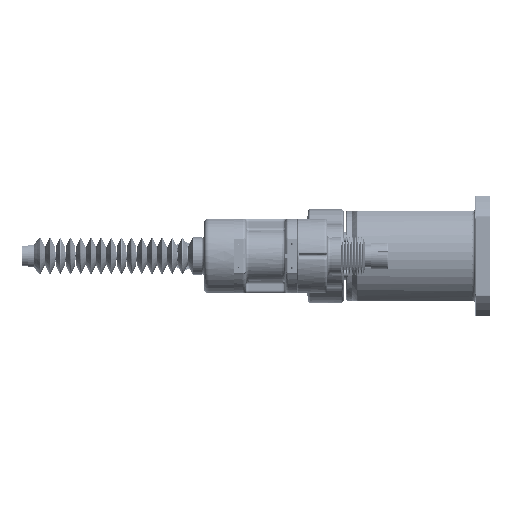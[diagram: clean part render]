
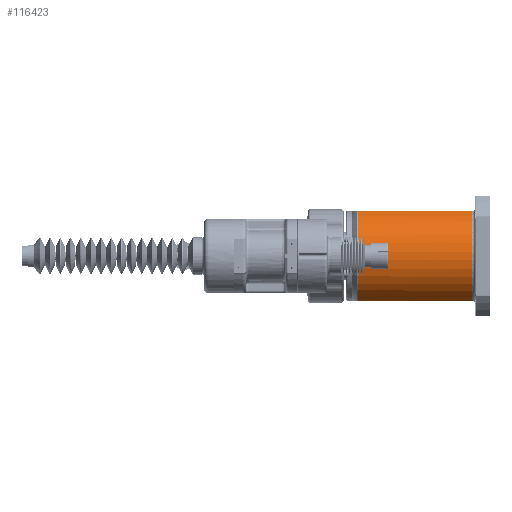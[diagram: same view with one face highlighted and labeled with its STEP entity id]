
A CAD part, left-side view. The second image highlights one B-rep face of the part: STEP entity #116423.
In plain terms, the highlighted cylindrical face has radius 83 mm (diameter 166 mm), a partial arc.
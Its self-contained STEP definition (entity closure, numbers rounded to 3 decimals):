
#2481 = CARTESIAN_POINT ( 'NONE',  ( -36.586, 221.035, 74.502 ) ) ;
#6989 = VERTEX_POINT ( 'NONE', #116184 ) ;
#8229 = CARTESIAN_POINT ( 'NONE',  ( -36.048, 220.78, -74.763 ) ) ;
#12131 = EDGE_CURVE ( 'NONE', #31593, #6989, #113840, .T. ) ;
#15678 = LINE ( 'NONE', #35209, #52972 ) ;
#16330 = EDGE_CURVE ( 'NONE', #16658, #32130, #105154, .T. ) ;
#16658 = VERTEX_POINT ( 'NONE', #77937 ) ;
#31593 = VERTEX_POINT ( 'NONE', #157067 ) ;
#32130 = VERTEX_POINT ( 'NONE', #62257 ) ;
#32395 = CARTESIAN_POINT ( 'NONE',  ( -36.729, 221.064, -74.431 ) ) ;
#34011 = CARTESIAN_POINT ( 'NONE',  ( -36.589, 221.026, -74.5 ) ) ;
#34545 = CARTESIAN_POINT ( 'NONE',  ( -37.726, 221.172, -73.931 ) ) ;
#35209 = CARTESIAN_POINT ( 'NONE',  ( -36.048, 230., -74.763 ) ) ;
#46078 = CARTESIAN_POINT ( 'NONE',  ( -37.438, 221.172, -74.078 ) ) ;
#48480 = CIRCLE ( 'NONE', #103019, 83. ) ;
#48777 = EDGE_CURVE ( 'NONE', #32130, #31593, #116551, .T. ) ;
#50733 = FACE_OUTER_BOUND ( 'NONE', #103417, .T. ) ;
#52972 = VECTOR ( 'NONE', #122308, 1000. ) ;
#53550 = ORIENTED_EDGE ( 'NONE', *, *, #112630, .T. ) ;
#55733 = CARTESIAN_POINT ( 'NONE',  ( 0., 30., 0. ) ) ;
#60464 = CARTESIAN_POINT ( 'NONE',  ( -36.048, 230., 74.763 ) ) ;
#62257 = CARTESIAN_POINT ( 'NONE',  ( -36.048, 220.78, 74.763 ) ) ;
#64444 = CARTESIAN_POINT ( 'NONE',  ( -37.438, 221.172, 74.077 ) ) ;
#69458 = DIRECTION ( 'NONE',  ( 0., 1., 0. ) ) ;
#70213 = CARTESIAN_POINT ( 'NONE',  ( -36.176, 220.862, -74.702 ) ) ;
#71824 = CARTESIAN_POINT ( 'NONE',  ( -37.152, 221.15, -74.221 ) ) ;
#75687 = ORIENTED_EDGE ( 'NONE', *, *, #12131, .T. ) ;
#77937 = CARTESIAN_POINT ( 'NONE',  ( -36.048, 30., 74.763 ) ) ;
#80680 = VERTEX_POINT ( 'NONE', #91601 ) ;
#84144 = B_SPLINE_CURVE_WITH_KNOTS ( 'NONE', 3,
 ( #34545, #46078, #71824, #32395, #34011, #134852, #70213, #8229 ),
 .UNSPECIFIED., .F., .F.,
 ( 4, 2, 2, 4 ),
 ( 0., 0.001, 0.001, 0.002 ),
 .UNSPECIFIED. ) ;
#88469 = CARTESIAN_POINT ( 'NONE',  ( -37.726, 221.172, 73.931 ) ) ;
#91507 = DIRECTION ( 'NONE',  ( 0., -1., 0. ) ) ;
#91601 = CARTESIAN_POINT ( 'NONE',  ( -36.048, 30., -74.763 ) ) ;
#91755 = AXIS2_PLACEMENT_3D ( 'NONE', #97673, #149960, #160438 ) ;
#93416 = DIRECTION ( 'NONE',  ( 1., 0., 0. ) ) ;
#97673 = CARTESIAN_POINT ( 'NONE',  ( 0., 230., 0. ) ) ;
#99327 = VECTOR ( 'NONE', #136193, 1000. ) ;
#102131 = CARTESIAN_POINT ( 'NONE',  ( -37.152, 221.15, 74.221 ) ) ;
#103019 = AXIS2_PLACEMENT_3D ( 'NONE', #55733, #69458, #93416 ) ;
#103417 = EDGE_LOOP ( 'NONE', ( #160569, #53550, #138014, #149278, #111632, #75687 ) ) ;
#105154 = LINE ( 'NONE', #60464, #99327 ) ;
#111632 = ORIENTED_EDGE ( 'NONE', *, *, #48777, .T. ) ;
#112630 = EDGE_CURVE ( 'NONE', #156915, #80680, #15678, .T. ) ;
#113840 = CIRCLE ( 'NONE', #158579, 83. ) ;
#114215 = CARTESIAN_POINT ( 'NONE',  ( -36.048, 220.78, 74.763 ) ) ;
#116180 = CARTESIAN_POINT ( 'NONE',  ( 0., 221.172, 0. ) ) ;
#116184 = CARTESIAN_POINT ( 'NONE',  ( -37.726, 221.172, -73.931 ) ) ;
#116423 = ADVANCED_FACE ( 'NONE', ( #50733 ), #162670, .T. ) ;
#116551 = B_SPLINE_CURVE_WITH_KNOTS ( 'NONE', 3,
 ( #114215, #127476, #2481, #102131, #64444, #88469 ),
 .UNSPECIFIED., .F., .F.,
 ( 4, 2, 4 ),
 ( 0., 0.001, 0.002 ),
 .UNSPECIFIED. ) ;
#122308 = DIRECTION ( 'NONE',  ( 0., -1., 0. ) ) ;
#127476 = CARTESIAN_POINT ( 'NONE',  ( -36.302, 220.942, 74.641 ) ) ;
#131203 = CARTESIAN_POINT ( 'NONE',  ( -36.048, 220.78, -74.763 ) ) ;
#134852 = CARTESIAN_POINT ( 'NONE',  ( -36.312, 220.925, -74.636 ) ) ;
#136193 = DIRECTION ( 'NONE',  ( 0., 1., 0. ) ) ;
#138014 = ORIENTED_EDGE ( 'NONE', *, *, #152516, .T. ) ;
#141543 = DIRECTION ( 'NONE',  ( -1., 0., 0. ) ) ;
#142156 = EDGE_CURVE ( 'NONE', #6989, #156915, #84144, .T. ) ;
#149278 = ORIENTED_EDGE ( 'NONE', *, *, #16330, .T. ) ;
#149960 = DIRECTION ( 'NONE',  ( 0., 1., 0. ) ) ;
#152516 = EDGE_CURVE ( 'NONE', #80680, #16658, #48480, .T. ) ;
#156915 = VERTEX_POINT ( 'NONE', #131203 ) ;
#157067 = CARTESIAN_POINT ( 'NONE',  ( -37.726, 221.172, 73.931 ) ) ;
#158579 = AXIS2_PLACEMENT_3D ( 'NONE', #116180, #91507, #141543 ) ;
#160438 = DIRECTION ( 'NONE',  ( -1., 0., 0. ) ) ;
#160569 = ORIENTED_EDGE ( 'NONE', *, *, #142156, .T. ) ;
#162670 = CYLINDRICAL_SURFACE ( 'NONE', #91755, 83. ) ;
